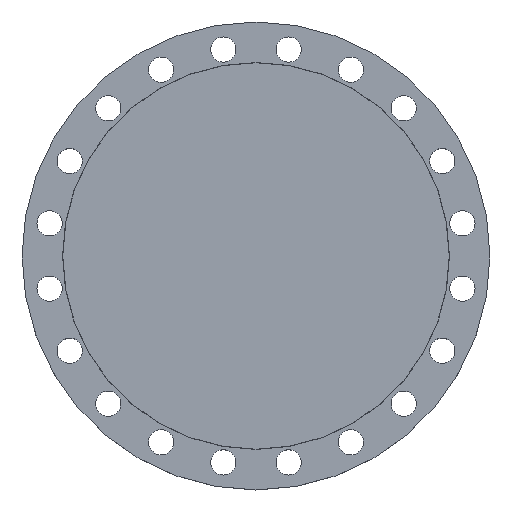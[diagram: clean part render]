
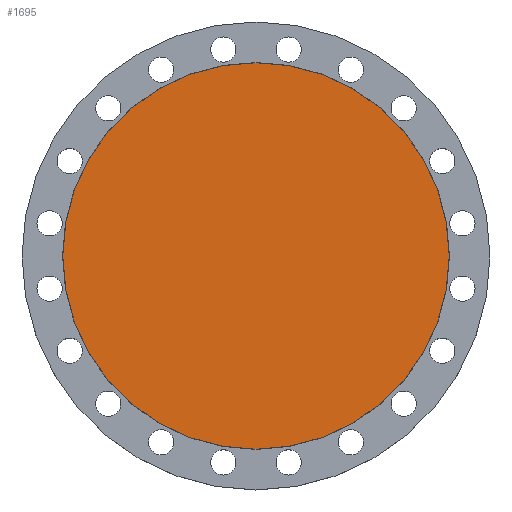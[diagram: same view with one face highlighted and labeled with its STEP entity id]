
A CAD part, top view. The second image highlights one B-rep face of the part: STEP entity #1695.
In plain terms, the highlighted planar face has unit normal (0, 0, 1).
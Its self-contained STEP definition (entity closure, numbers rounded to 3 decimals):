
#76 = FACE_OUTER_BOUND ( 'NONE', #1661, .T. ) ;
#83 = EDGE_CURVE ( 'NONE', #1262, #1353, #161, .T. ) ;
#161 = CIRCLE ( 'NONE', #164, 367.5 ) ;
#164 = AXIS2_PLACEMENT_3D ( 'NONE', #918, #917, #915 ) ;
#289 = EDGE_CURVE ( 'NONE', #1353, #1262, #776, .T. ) ;
#369 = CARTESIAN_POINT ( 'NONE',  ( -367.5, 0., 0. ) ) ;
#393 = PLANE ( 'NONE',  #1282 ) ;
#421 = CARTESIAN_POINT ( 'NONE',  ( 367.5, 0., 0. ) ) ;
#776 = CIRCLE ( 'NONE', #780, 367.5 ) ;
#780 = AXIS2_PLACEMENT_3D ( 'NONE', #815, #813, #812 ) ;
#812 = DIRECTION ( 'NONE',  ( -1., 0., 0. ) ) ;
#813 = DIRECTION ( 'NONE',  ( 0., 0., -1. ) ) ;
#815 = CARTESIAN_POINT ( 'NONE',  ( 0., 0., 0. ) ) ;
#915 = DIRECTION ( 'NONE',  ( -1., 0., 0. ) ) ;
#917 = DIRECTION ( 'NONE',  ( 0., 0., -1. ) ) ;
#918 = CARTESIAN_POINT ( 'NONE',  ( 0., 0., 0. ) ) ;
#1262 = VERTEX_POINT ( 'NONE', #421 ) ;
#1282 = AXIS2_PLACEMENT_3D ( 'NONE', #1422, #1433, #1446 ) ;
#1353 = VERTEX_POINT ( 'NONE', #369 ) ;
#1422 = CARTESIAN_POINT ( 'NONE',  ( 0., 0., 0. ) ) ;
#1433 = DIRECTION ( 'NONE',  ( 0., 0., 1. ) ) ;
#1446 = DIRECTION ( 'NONE',  ( 1., 0., 0. ) ) ;
#1458 = ORIENTED_EDGE ( 'NONE', *, *, #83, .F. ) ;
#1459 = ORIENTED_EDGE ( 'NONE', *, *, #289, .F. ) ;
#1661 = EDGE_LOOP ( 'NONE', ( #1459, #1458 ) ) ;
#1695 = ADVANCED_FACE ( 'NONE', ( #76 ), #393, .T. ) ;
